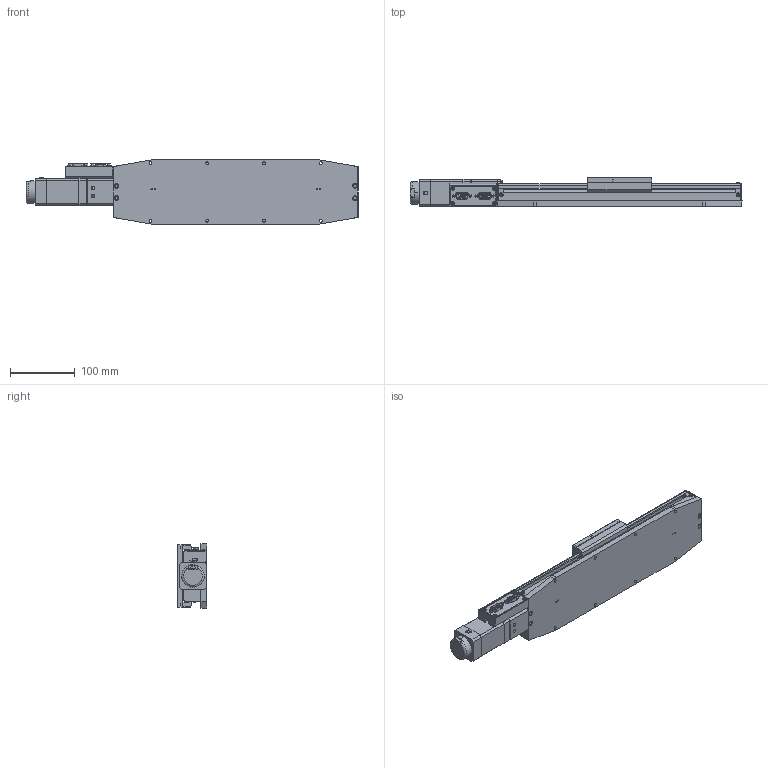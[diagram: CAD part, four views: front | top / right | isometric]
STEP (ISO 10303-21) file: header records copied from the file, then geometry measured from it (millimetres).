
FILE_DESCRIPTION (( 'STEP AP214' ), '1' );
FILE_NAME ('L3500.250-STC_v2_20180822.STEP', '2018-08-22T11:25:59', ( '' ), ( '' ), 'SwSTEP 2.0', 'SolidWorks 2017', '' );
FILE_SCHEMA (( 'AUTOMOTIVE_DESIGN' ));
Length unit declared in the file: millimetre
Products named in the file (1): L3500.250-STC_v2_20180822
Bounding box: 512.45 x 45.32 x 99.06 mm (x, y, z)
Volume: 926756.5 mm3; surface area: 366655.2 mm2
Topology: 53 solids, 54 shells, 2842 faces, 7199 edges, 4587 vertices
Faces by surface type: plane 1425, cylinder 1114, cone 208, bspline 65, torus 30
Entity records: 88372 total; most frequent: CARTESIAN_POINT 18272, DIRECTION 14702, ORIENTED_EDGE 14118, EDGE_CURVE 7059, AXIS2_PLACEMENT_3D 5134, VERTEX_POINT 4587, VECTOR 4434, LINE 4434
